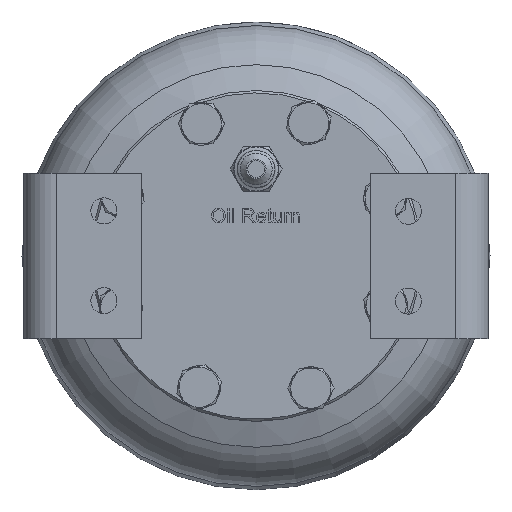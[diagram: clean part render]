
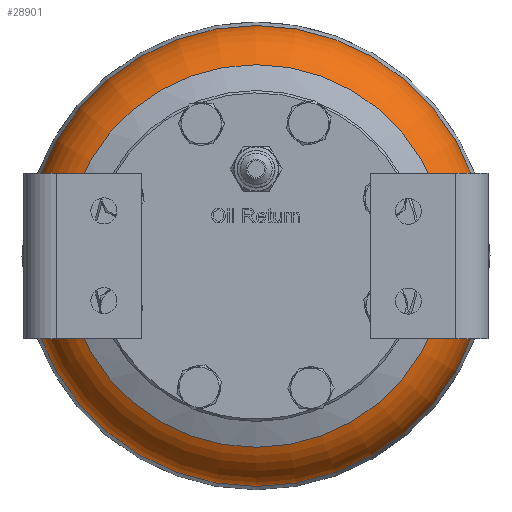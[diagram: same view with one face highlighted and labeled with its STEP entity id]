
A CAD part, front view. The second image highlights one B-rep face of the part: STEP entity #28901.
In plain terms, the highlighted toroidal (fillet/blend) face has major radius 69.5 mm and minor radius 28 mm.
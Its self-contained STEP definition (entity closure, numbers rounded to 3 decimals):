
#244=TOROIDAL_SURFACE('',#31378,69.5,28.);
#1427=FACE_BOUND('',#9822,.T.);
#7966=FACE_OUTER_BOUND('',#9821,.T.);
#9821=EDGE_LOOP('',(#26189,#26190));
#9822=EDGE_LOOP('',(#26191));
#10731=CIRCLE('',#31377,97.5);
#10732=CIRCLE('',#31379,80.933);
#10733=CIRCLE('',#31380,80.933);
#13542=VERTEX_POINT('',#58856);
#13543=VERTEX_POINT('',#58859);
#13544=VERTEX_POINT('',#58860);
#17791=EDGE_CURVE('',#13542,#13542,#10731,.T.);
#17792=EDGE_CURVE('',#13543,#13544,#10732,.T.);
#17793=EDGE_CURVE('',#13544,#13543,#10733,.T.);
#26189=ORIENTED_EDGE('',*,*,#17792,.F.);
#26190=ORIENTED_EDGE('',*,*,#17793,.F.);
#26191=ORIENTED_EDGE('',*,*,#17791,.T.);
#28901=ADVANCED_FACE('',(#7966,#1427),#244,.T.);
#31377=AXIS2_PLACEMENT_3D('',#58857,#38183,#38184);
#31378=AXIS2_PLACEMENT_3D('',#58858,#38185,#38186);
#31379=AXIS2_PLACEMENT_3D('',#58861,#38187,#38188);
#31380=AXIS2_PLACEMENT_3D('',#58862,#38189,#38190);
#38183=DIRECTION('center_axis',(0.,-1.,0.));
#38184=DIRECTION('ref_axis',(1.,0.,0.));
#38185=DIRECTION('center_axis',(0.,-1.,0.));
#38186=DIRECTION('ref_axis',(0.,0.,
-1.));
#38187=DIRECTION('center_axis',(0.,-1.,0.));
#38188=DIRECTION('ref_axis',(1.,0.,0.));
#38189=DIRECTION('center_axis',(0.,-1.,0.));
#38190=DIRECTION('ref_axis',(1.,0.,0.));
#58856=CARTESIAN_POINT('',(97.5,-200.485,-1.329));
#58857=CARTESIAN_POINT('Origin',(0.,-200.485,
-1.329));
#58858=CARTESIAN_POINT('Origin',(0.,-200.485,
-1.329));
#58859=CARTESIAN_POINT('',(80.933,-226.045,-1.329));
#58860=CARTESIAN_POINT('',(0.,-226.045,79.604));
#58861=CARTESIAN_POINT('Origin',(0.,-226.045,
-1.329));
#58862=CARTESIAN_POINT('Origin',(0.,-226.045,
-1.329));
